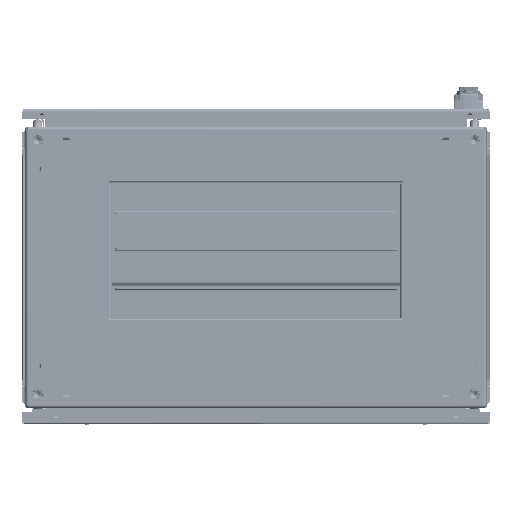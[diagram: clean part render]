
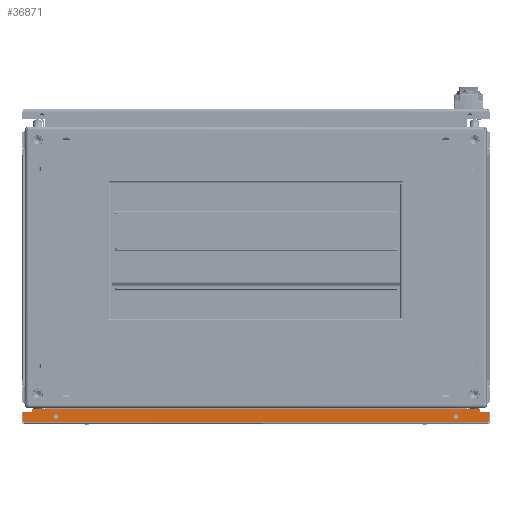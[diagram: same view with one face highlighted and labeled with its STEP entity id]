
A CAD part, front view. The second image highlights one B-rep face of the part: STEP entity #36871.
In plain terms, the highlighted planar face has unit normal (0, -1, 0).
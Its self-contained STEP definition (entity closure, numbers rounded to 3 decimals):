
#566 = EDGE_CURVE ( 'NONE', #78400, #149107, #85635, .T. ) ;
#3564 = VERTEX_POINT ( 'NONE', #57043 ) ;
#5623 = CARTESIAN_POINT ( 'NONE',  ( -286.505, -491.501, 18.367 ) ) ;
#6944 = DIRECTION ( 'NONE',  ( 0., 0., -1. ) ) ;
#7044 = VECTOR ( 'NONE', #146207, 1000. ) ;
#7095 = EDGE_CURVE ( 'NONE', #174876, #3564, #139357, .T. ) ;
#8863 = CARTESIAN_POINT ( 'NONE',  ( -255.822, -491.501, 8.842 ) ) ;
#10994 = EDGE_CURVE ( 'NONE', #3564, #149107, #100001, .T. ) ;
#14870 = VECTOR ( 'NONE', #6944, 1000. ) ;
#14890 = EDGE_CURVE ( 'NONE', #36807, #182474, #174232, .T. ) ;
#15573 = CARTESIAN_POINT ( 'NONE',  ( -253.041, -491.501, 8.842 ) ) ;
#16149 = AXIS2_PLACEMENT_3D ( 'NONE', #81182, #190046, #96833 ) ;
#22497 = CIRCLE ( 'NONE', #16149, 2.781 ) ;
#22634 = CARTESIAN_POINT ( 'NONE',  ( 258.603, -491.501, 8.842 ) ) ;
#24586 = DIRECTION ( 'NONE',  ( -1., 0., 0. ) ) ;
#26604 = CARTESIAN_POINT ( 'NONE',  ( 286.505, -491.501, 18.367 ) ) ;
#28409 = LINE ( 'NONE', #104582, #189368 ) ;
#30046 = AXIS2_PLACEMENT_3D ( 'NONE', #35208, #144376, #50983 ) ;
#30198 = CARTESIAN_POINT ( 'NONE',  ( 286.505, -491.501, 18.367 ) ) ;
#30595 = CARTESIAN_POINT ( 'NONE',  ( -258.603, -491.501, 8.842 ) ) ;
#33288 = CARTESIAN_POINT ( 'NONE',  ( 286.505, -491.501, 14.675 ) ) ;
#33430 = CIRCLE ( 'NONE', #86776, 2.781 ) ;
#33605 = ORIENTED_EDGE ( 'NONE', *, *, #127615, .F. ) ;
#33778 = LINE ( 'NONE', #149571, #189857 ) ;
#34494 = ORIENTED_EDGE ( 'NONE', *, *, #76577, .T. ) ;
#35208 = CARTESIAN_POINT ( 'NONE',  ( 255.822, -491.501, 8.842 ) ) ;
#36807 = VERTEX_POINT ( 'NONE', #70611 ) ;
#36871 = ADVANCED_FACE ( 'NONE', ( #105409, #63960, #188204 ), #117702, .F. ) ;
#42854 = ORIENTED_EDGE ( 'NONE', *, *, #7095, .T. ) ;
#43434 = ORIENTED_EDGE ( 'NONE', *, *, #14890, .T. ) ;
#44101 = VERTEX_POINT ( 'NONE', #15573 ) ;
#45137 = EDGE_CURVE ( 'NONE', #182474, #82060, #33778, .T. ) ;
#50983 = DIRECTION ( 'NONE',  ( -1., 0., 0. ) ) ;
#52852 = CARTESIAN_POINT ( 'NONE',  ( -296.081, -491.501, 14.675 ) ) ;
#56226 = DIRECTION ( 'NONE',  ( -1., 0., 0. ) ) ;
#56290 = CARTESIAN_POINT ( 'NONE',  ( -296.081, -491.501, 18.367 ) ) ;
#56389 = DIRECTION ( 'NONE',  ( 0., 1., 0. ) ) ;
#57043 = CARTESIAN_POINT ( 'NONE',  ( -286.505, -491.501, 14.675 ) ) ;
#59549 = EDGE_CURVE ( 'NONE', #82060, #99338, #83270, .T. ) ;
#61008 = DIRECTION ( 'NONE',  ( 0., 0., 1. ) ) ;
#62806 = CARTESIAN_POINT ( 'NONE',  ( 253.041, -491.501, 8.842 ) ) ;
#63960 = FACE_BOUND ( 'NONE', #169883, .T. ) ;
#70611 = CARTESIAN_POINT ( 'NONE',  ( 297.505, -491.501, 1.524 ) ) ;
#71073 = AXIS2_PLACEMENT_3D ( 'NONE', #56290, #196598, #103382 ) ;
#76577 = EDGE_CURVE ( 'NONE', #99526, #44101, #159653, .T. ) ;
#77411 = DIRECTION ( 'NONE',  ( 0., 0., 1. ) ) ;
#78373 = VECTOR ( 'NONE', #77411, 1000. ) ;
#78400 = VERTEX_POINT ( 'NONE', #114045 ) ;
#80711 = EDGE_LOOP ( 'NONE', ( #153683, #129488 ) ) ;
#81084 = AXIS2_PLACEMENT_3D ( 'NONE', #8863, #118108, #24586 ) ;
#81182 = CARTESIAN_POINT ( 'NONE',  ( 255.822, -491.501, 8.842 ) ) ;
#82003 = VERTEX_POINT ( 'NONE', #62806 ) ;
#82060 = VERTEX_POINT ( 'NONE', #33288 ) ;
#83270 = LINE ( 'NONE', #30198, #78373 ) ;
#85635 = LINE ( 'NONE', #193703, #168412 ) ;
#86776 = AXIS2_PLACEMENT_3D ( 'NONE', #149734, #56389, #165335 ) ;
#91452 = VECTOR ( 'NONE', #61008, 1000. ) ;
#92401 = CIRCLE ( 'NONE', #30046, 2.781 ) ;
#93603 = EDGE_CURVE ( 'NONE', #82003, #182975, #22497, .T. ) ;
#94213 = ORIENTED_EDGE ( 'NONE', *, *, #10994, .T. ) ;
#96833 = DIRECTION ( 'NONE',  ( -1., 0., 0. ) ) ;
#99295 = EDGE_LOOP ( 'NONE', ( #185918, #161668, #116344, #42854, #94213, #184455, #33605, #43434 ) ) ;
#99338 = VERTEX_POINT ( 'NONE', #26604 ) ;
#99526 = VERTEX_POINT ( 'NONE', #30595 ) ;
#100001 = LINE ( 'NONE', #52852, #7044 ) ;
#103382 = DIRECTION ( 'NONE',  ( 0., 0., 1. ) ) ;
#104582 = CARTESIAN_POINT ( 'NONE',  ( -296.081, -491.501, 18.367 ) ) ;
#105409 = FACE_BOUND ( 'NONE', #80711, .T. ) ;
#109679 = CARTESIAN_POINT ( 'NONE',  ( -296.081, -491.501, 1.524 ) ) ;
#111905 = EDGE_CURVE ( 'NONE', #44101, #99526, #33430, .T. ) ;
#114045 = CARTESIAN_POINT ( 'NONE',  ( -297.505, -491.501, 1.524 ) ) ;
#116143 = DIRECTION ( 'NONE',  ( 0., 0., 1. ) ) ;
#116344 = ORIENTED_EDGE ( 'NONE', *, *, #141888, .T. ) ;
#117702 = PLANE ( 'NONE',  #71073 ) ;
#118108 = DIRECTION ( 'NONE',  ( 0., 1., 0. ) ) ;
#125326 = DIRECTION ( 'NONE',  ( -1., 0., 0. ) ) ;
#127615 = EDGE_CURVE ( 'NONE', #36807, #78400, #190798, .T. ) ;
#129488 = ORIENTED_EDGE ( 'NONE', *, *, #177171, .T. ) ;
#134758 = ORIENTED_EDGE ( 'NONE', *, *, #111905, .T. ) ;
#139357 = LINE ( 'NONE', #5623, #14870 ) ;
#141888 = EDGE_CURVE ( 'NONE', #99338, #174876, #28409, .T. ) ;
#144376 = DIRECTION ( 'NONE',  ( 0., 1., 0. ) ) ;
#144541 = VECTOR ( 'NONE', #125326, 1000. ) ;
#146207 = DIRECTION ( 'NONE',  ( -1., 0., 0. ) ) ;
#149107 = VERTEX_POINT ( 'NONE', #197519 ) ;
#149571 = CARTESIAN_POINT ( 'NONE',  ( -296.081, -491.501, 14.675 ) ) ;
#149734 = CARTESIAN_POINT ( 'NONE',  ( -255.822, -491.501, 8.842 ) ) ;
#153683 = ORIENTED_EDGE ( 'NONE', *, *, #93603, .T. ) ;
#154321 = CARTESIAN_POINT ( 'NONE',  ( 297.505, -491.501, 1.524 ) ) ;
#159653 = CIRCLE ( 'NONE', #81084, 2.781 ) ;
#161668 = ORIENTED_EDGE ( 'NONE', *, *, #59549, .T. ) ;
#165335 = DIRECTION ( 'NONE',  ( -1., 0., 0. ) ) ;
#168412 = VECTOR ( 'NONE', #116143, 1000. ) ;
#169883 = EDGE_LOOP ( 'NONE', ( #34494, #134758 ) ) ;
#173187 = CARTESIAN_POINT ( 'NONE',  ( -286.505, -491.501, 18.367 ) ) ;
#173983 = CARTESIAN_POINT ( 'NONE',  ( 297.505, -491.501, 14.675 ) ) ;
#174232 = LINE ( 'NONE', #154321, #91452 ) ;
#174876 = VERTEX_POINT ( 'NONE', #173187 ) ;
#177171 = EDGE_CURVE ( 'NONE', #182975, #82003, #92401, .T. ) ;
#182474 = VERTEX_POINT ( 'NONE', #173983 ) ;
#182975 = VERTEX_POINT ( 'NONE', #22634 ) ;
#184455 = ORIENTED_EDGE ( 'NONE', *, *, #566, .F. ) ;
#185918 = ORIENTED_EDGE ( 'NONE', *, *, #45137, .T. ) ;
#188204 = FACE_OUTER_BOUND ( 'NONE', #99295, .T. ) ;
#189368 = VECTOR ( 'NONE', #197797, 1000. ) ;
#189857 = VECTOR ( 'NONE', #56226, 1000. ) ;
#190046 = DIRECTION ( 'NONE',  ( 0., 1., 0. ) ) ;
#190798 = LINE ( 'NONE', #109679, #144541 ) ;
#193703 = CARTESIAN_POINT ( 'NONE',  ( -297.505, -491.501, 1.524 ) ) ;
#196598 = DIRECTION ( 'NONE',  ( 0., 1., 0. ) ) ;
#197519 = CARTESIAN_POINT ( 'NONE',  ( -297.505, -491.501, 14.675 ) ) ;
#197797 = DIRECTION ( 'NONE',  ( -1., 0., 0. ) ) ;
